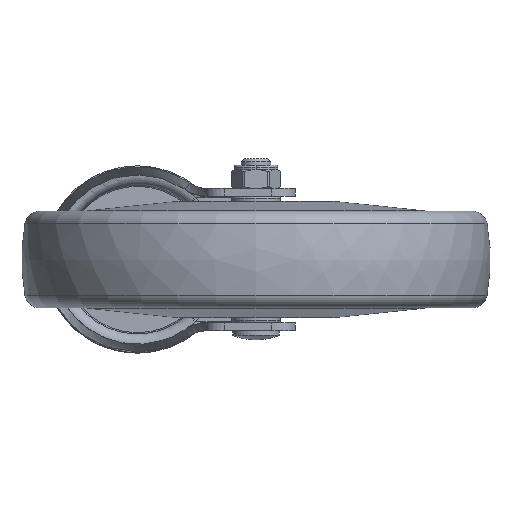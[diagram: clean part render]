
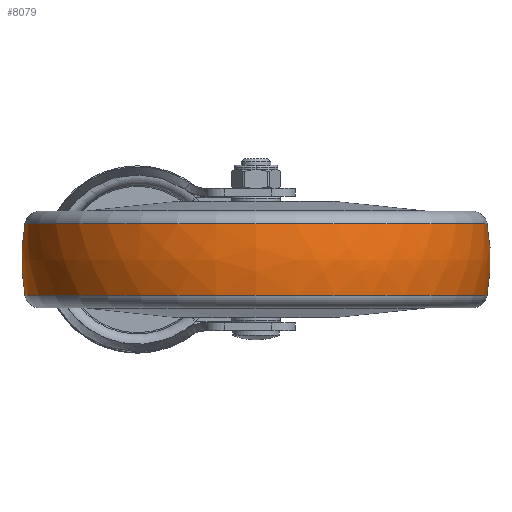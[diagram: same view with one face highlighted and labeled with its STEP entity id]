
A CAD part, front view. The second image highlights one B-rep face of the part: STEP entity #8079.
In plain terms, the highlighted free-form (B-spline) face has degree [3, 3] with [7, 4] control points.
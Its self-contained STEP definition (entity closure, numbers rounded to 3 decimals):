
#7308=CARTESIAN_POINT('',(-11.405,0.,0.));
#7309=DIRECTION('',(-1.,0.,0.));
#7310=DIRECTION('',(0.,1.,0.));
#7311=AXIS2_PLACEMENT_3D('',#7308,#7309,#7310);
#7323=CARTESIAN_POINT('',(0.,12.018,0.));
#7324=DIRECTION('',(0.,0.,1.));
#7325=DIRECTION('',(0.181,0.983,0.));
#7326=AXIS2_PLACEMENT_3D('',#7323,#7324,#7325);
#7328=CARTESIAN_POINT('',(0.,-12.018,0.));
#7329=DIRECTION('',(0.,0.,-1.));
#7330=DIRECTION('',(0.181,-0.983,0.));
#7331=AXIS2_PLACEMENT_3D('',#7328,#7329,#7330);
#7333=CARTESIAN_POINT('',(11.405,0.,0.));
#7334=DIRECTION('',(-1.,0.,0.));
#7335=DIRECTION('',(0.,1.,0.));
#7336=AXIS2_PLACEMENT_3D('',#7333,#7334,#7335);
#7585=CARTESIAN_POINT('',(11.405,73.977,0.));
#7587=VERTEX_POINT('',#7585);
#7588=CARTESIAN_POINT('',(-11.405,73.977,0.));
#7589=VERTEX_POINT('',#7588);
#7637=CARTESIAN_POINT('',(11.405,-73.977,
0.));
#7639=VERTEX_POINT('',#7637);
#7640=CARTESIAN_POINT('',(-11.405,-73.977,
0.));
#7641=VERTEX_POINT('',#7640);
#8043=CARTESIAN_POINT('',(-11.856,-73.746,
4.64));
#8044=CARTESIAN_POINT('',(-4.,-75.249,
4.734));
#8045=CARTESIAN_POINT('',(4.,-75.249,4.734));
#8046=CARTESIAN_POINT('',(11.856,-73.746,4.64));
#8047=CARTESIAN_POINT('',(-11.856,-76.601,
-40.744));
#8048=CARTESIAN_POINT('',(-4.,-78.162,
-41.574));
#8049=CARTESIAN_POINT('',(4.,-78.162,
-41.574));
#8050=CARTESIAN_POINT('',(11.856,-76.601,
-40.744));
#8051=CARTESIAN_POINT('',(-11.856,-45.473,
-73.892));
#8052=CARTESIAN_POINT('',(-4.,-46.399,
-75.397));
#8053=CARTESIAN_POINT('',(4.,-46.399,
-75.397));
#8054=CARTESIAN_POINT('',(11.856,-45.473,
-73.892));
#8055=CARTESIAN_POINT('',(-11.856,0.,
-73.892));
#8056=CARTESIAN_POINT('',(-4.,0.,
-75.397));
#8057=CARTESIAN_POINT('',(4.,0.,
-75.397));
#8058=CARTESIAN_POINT('',(11.856,0.,
-73.892));
#8059=CARTESIAN_POINT('',(-11.856,45.473,
-73.892));
#8060=CARTESIAN_POINT('',(-4.,46.399,
-75.397));
#8061=CARTESIAN_POINT('',(4.,46.399,-75.397));
#8062=CARTESIAN_POINT('',(11.856,45.473,-73.892));
#8063=CARTESIAN_POINT('',(-11.856,76.601,
-40.744));
#8064=CARTESIAN_POINT('',(-4.,78.162,
-41.574));
#8065=CARTESIAN_POINT('',(4.,78.162,-41.574));
#8066=CARTESIAN_POINT('',(11.856,76.601,-40.744));
#8067=CARTESIAN_POINT('',(-11.856,73.746,4.64));
#8068=CARTESIAN_POINT('',(-4.,75.249,4.734));
#8069=CARTESIAN_POINT('',(4.,75.249,4.734));
#8070=CARTESIAN_POINT('',(11.856,73.746,4.64));
#8071=(BOUNDED_SURFACE()B_SPLINE_SURFACE(3,3,((#8043,#8044,#8045,#8046),(#8047,
#8048,#8049,#8050),(#8051,#8052,#8053,#8054),(#8055,#8056,#8057,#8058),(#8059,
#8060,#8061,#8062),(#8063,#8064,#8065,#8066),(#8067,#8068,#8069,#8070)),
.UNSPECIFIED.,.F.,.F.,.F.)B_SPLINE_SURFACE_WITH_KNOTS((4,3,4),(4,4),(0.,1.,
2.),(0.,1.),.UNSPECIFIED.)GEOMETRIC_REPRESENTATION_ITEM()RATIONAL_B_SPLINE_SURFACE(((1.198,1.184,1.184,1.198),(
0.946,0.935,0.935,0.946),(
0.946,0.935,0.935,0.946),(
1.198,1.184,1.184,1.198),(
0.946,0.935,0.935,0.946),(
0.946,0.935,0.935,0.946),(
1.198,1.184,1.184,1.198)))REPRESENTATION_ITEM('')SURFACE());
#8072=ORIENTED_EDGE('',*,*,#8033,.T.);
#8073=ORIENTED_EDGE('',*,*,#7986,.T.);
#8074=ORIENTED_EDGE('',*,*,#8037,.F.);
#8076=ORIENTED_EDGE('',*,*,#8075,.F.);
#8077=EDGE_LOOP('',(#8072,#8073,#8074,#8076));
#8078=FACE_OUTER_BOUND('',#8077,.F.);
#7312=CIRCLE('',#7311,73.977);
#7327=CIRCLE('',#7326,63.);
#7332=CIRCLE('',#7331,63.);
#7337=CIRCLE('',#7336,73.977);
#7986=EDGE_CURVE('',#7589,#7641,#7312,.T.);
#8033=EDGE_CURVE('',#7587,#7589,#7327,.T.);
#8037=EDGE_CURVE('',#7639,#7641,#7332,.T.);
#8075=EDGE_CURVE('',#7587,#7639,#7337,.T.);
#8079=ADVANCED_FACE('',(#8078),#8071,.T.);
